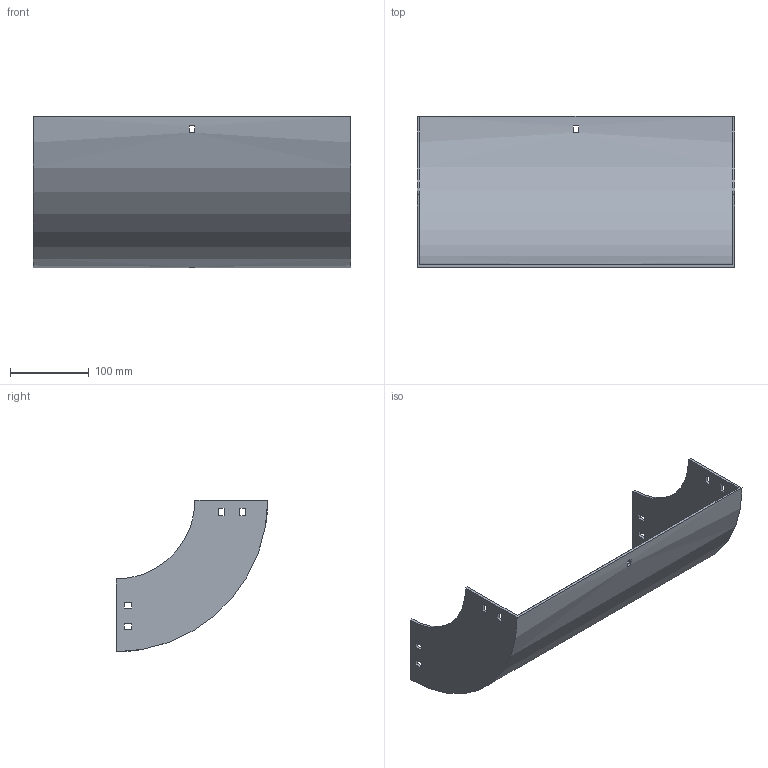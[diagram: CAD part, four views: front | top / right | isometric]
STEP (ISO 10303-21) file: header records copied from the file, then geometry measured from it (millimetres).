
FILE_DESCRIPTION (( 'STEP AP214' ), '1' );
FILE_NAME ('30B1I400.step', '2025-02-21T09:51:28', ( '' ), ( '' ), 'SwSTEP 2.0', 'SolidWorks 2023', '' );
FILE_SCHEMA (( 'AUTOMOTIVE_DESIGN' ));
Length unit declared in the file: millimetre
Products named in the file (1): 30B1I400
Bounding box: 404 x 192.5 x 192.5 mm (x, y, z)
Volume: 562713.5 mm3; surface area: 327913.2 mm2
Topology: 1 solids, 1 shells, 50 faces, 144 edges, 96 vertices
Faces by surface type: plane 46, cylinder 4
Entity records: 1687 total; most frequent: CARTESIAN_POINT 291, ORIENTED_EDGE 288, DIRECTION 262, EDGE_CURVE 144, VECTOR 128, LINE 128, VERTEX_POINT 96, EDGE_LOOP 70
